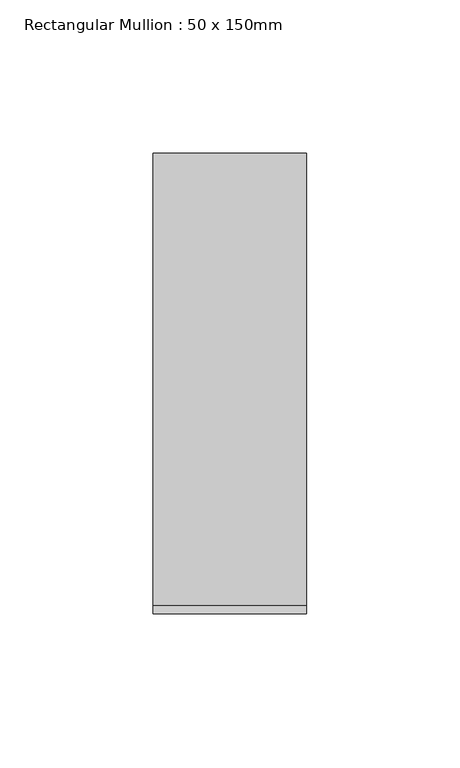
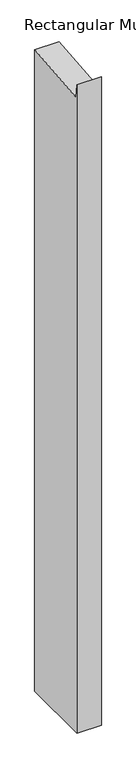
"""IFC4 building model written with IfcOpenShell, lengths in millimetres: member geometry, Rectangular Mullion : 50 x 150mm."""

from ifc_helpers import new_model, si_unit, frame, origin, place, context, project, spatial, polyline, outline, extrude, source, transform, mapped, element, save


def rectangular_mullion_50_x_150mm_03a945fa(model_context):
    return source(origin(), model_context, "Body", "SweptSolid", [
        extrude(outline(polyline([(-75.0, 21.4461925), (-72.3000691, -6.9796813), (75.0, 7.0110941), (75.0, -1383.1465145), (-75.0, -1383.1465145), (-75.0, 21.4461925)])), frame((-50.0, 0.0, 0.0), z_axis=(1.0, 0.0, 0.0), x_axis=(0.0, 1.0, 0.0)), (0.0, 0.0, 1.0), 50.0),
    ])


if __name__ == "__main__":
    model = new_model("IFC4")
    model_context = context("Model", 3, world=origin())
    ifc_project = project(units=[si_unit("LENGTHUNIT", "METRE", prefix="MILLI")], contexts=[model_context])
    site = spatial("IfcSite", under=ifc_project)
    building = spatial("IfcBuilding", under=site)
    placement = place(None, origin())
    rectangular_mullion_50_x_150mm_shape = rectangular_mullion_50_x_150mm_03a945fa(model_context)
    element("IfcMember", 1, ObjectType="Rectangular Mullion : 50 x 150mm", at=placement, inside=building, context=model_context, shape_type="MappedRepresentation", body=[
        mapped(rectangular_mullion_50_x_150mm_shape, transform((0.0, 0.0, 0.0), x_axis=(1.0, 0.0, 0.0), y_axis=(0.0, 1.0, 0.0), z_axis=(0.0, 0.0, 1.0))),
    ])
    save(model, "model.ifc")
